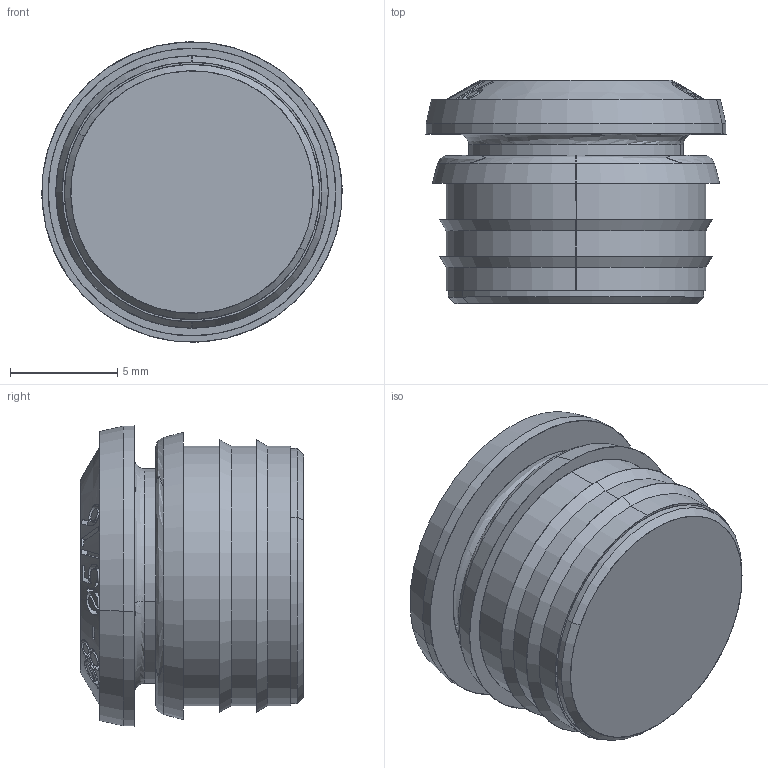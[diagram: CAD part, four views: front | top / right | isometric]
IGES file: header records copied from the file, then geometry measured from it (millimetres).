
Start section: SolidWorks IGES file using analytic representation for surfaces
Global section: file name: K:\Disegni Esecutivi\Serie 55000\55800\55800R\ASSIEMI_PIENI_55800R\5580000004.IGS; native system: SolidWorks 2007; preprocessor: SolidWorks 2007; author: cad02; date: 071015.110009; units: millimetre
Bounding box: 13.99 x 10.4 x 13.99 mm (x, y, z)
Surface area: 1038.4 mm2 (no closed solid volume)
Topology: 0 solids, 0 shells, 182 faces, 2072 edges, 2069 vertices
Faces by surface type: bspline 127, revolution 55
